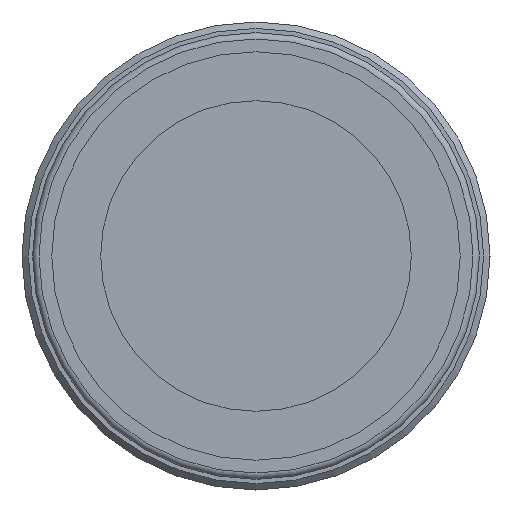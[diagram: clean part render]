
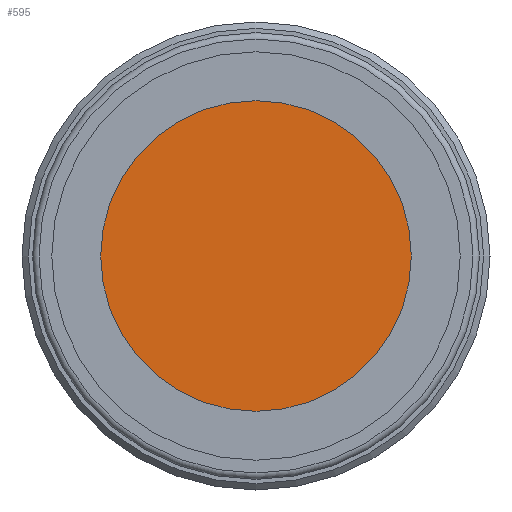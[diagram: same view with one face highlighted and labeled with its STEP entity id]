
A CAD part, left-side view. The second image highlights one B-rep face of the part: STEP entity #595.
In plain terms, the highlighted planar face has unit normal (-1, 0, 0).
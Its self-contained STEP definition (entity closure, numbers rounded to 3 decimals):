
#572=CARTESIAN_POINT('',(29.99,0.0,7.3));
#573=VERTEX_POINT('',#572);
#574=CARTESIAN_POINT('',(29.99,0.0,0.));
#575=DIRECTION('',(-1.0,0.0,0.0));
#576=DIRECTION('',(0.0,0.0,1.0));
#577=AXIS2_PLACEMENT_3D('',#574,#575,#576);
#578=CIRCLE('',#577,7.3);
#579=EDGE_CURVE('',#573,#573,#578,.T.);
#587=CARTESIAN_POINT('',(29.99,0.0,3.65));
#588=DIRECTION('',(-1.0,0.0,0.0));
#589=DIRECTION('',(0.0,0.0,1.0));
#590=AXIS2_PLACEMENT_3D('',#587,#588,#589);
#591=PLANE('',#590);
#592=ORIENTED_EDGE('',*,*,#579,.T.);
#593=EDGE_LOOP('',(#592));
#594=FACE_OUTER_BOUND('',#593,.T.);
#595=ADVANCED_FACE('',(#594),#591,.T.);
